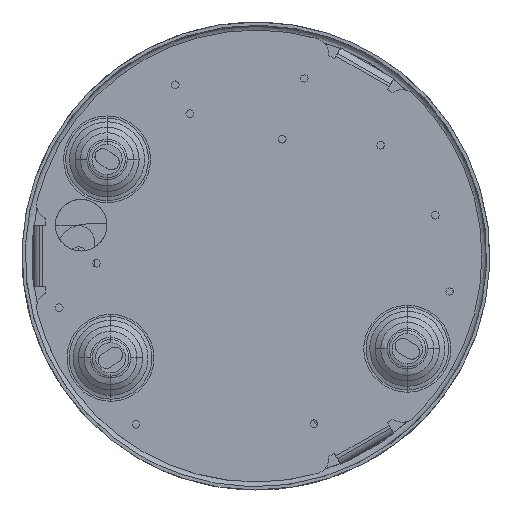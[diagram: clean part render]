
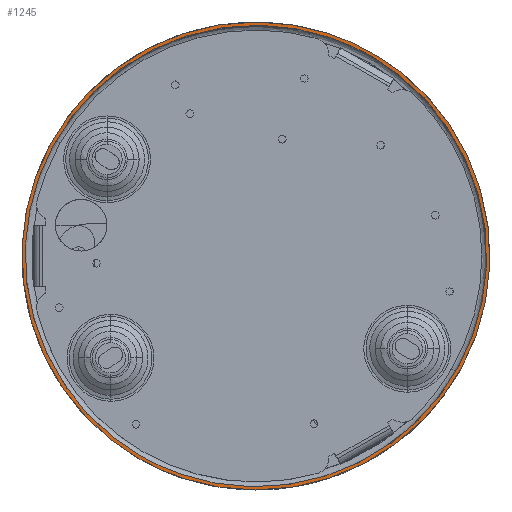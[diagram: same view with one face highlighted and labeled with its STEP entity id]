
A CAD part, top view. The second image highlights one B-rep face of the part: STEP entity #1245.
In plain terms, the highlighted planar face has unit normal (0, 0, 1).
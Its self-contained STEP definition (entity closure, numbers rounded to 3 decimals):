
#584=FACE_BOUND('',#3029,.T.);
#1245=ADVANCED_FACE('',(#2073,#584),#12889,.T.);
#2073=FACE_OUTER_BOUND('',#3028,.T.);
#3028=EDGE_LOOP('',(#6291,#6292));
#3029=EDGE_LOOP('',(#6293,#6294));
#6291=ORIENTED_EDGE('',*,*,#8867,.F.);
#6292=ORIENTED_EDGE('',*,*,#8838,.F.);
#6293=ORIENTED_EDGE('',*,*,#8852,.T.);
#6294=ORIENTED_EDGE('',*,*,#8873,.T.);
#8838=EDGE_CURVE('',#12371,#12391,#10391,.T.);
#8852=EDGE_CURVE('',#12382,#12393,#10404,.T.);
#8867=EDGE_CURVE('',#12391,#12371,#10413,.T.);
#8873=EDGE_CURVE('',#12393,#12382,#10418,.T.);
#10391=(
BOUNDED_CURVE()
B_SPLINE_CURVE(2,(#28893,#28894,#28895,#28896,#28897),.UNSPECIFIED.,.F.,
 .F.)
B_SPLINE_CURVE_WITH_KNOTS((3,2,3),(0.,113.883,227.765),
 .UNSPECIFIED.)
CURVE()
GEOMETRIC_REPRESENTATION_ITEM()
RATIONAL_B_SPLINE_CURVE((1.,0.707,1.,0.707,1.))
REPRESENTATION_ITEM('')
);
#10404=(
BOUNDED_CURVE()
B_SPLINE_CURVE(2,(#28944,#28945,#28946,#28947,#28948),.UNSPECIFIED.,.F.,
 .F.)
B_SPLINE_CURVE_WITH_KNOTS((3,2,3),(-449.248,-336.936,-224.624),
 .UNSPECIFIED.)
CURVE()
GEOMETRIC_REPRESENTATION_ITEM()
RATIONAL_B_SPLINE_CURVE((1.,0.707,1.,0.707,1.))
REPRESENTATION_ITEM('')
);
#10413=(
BOUNDED_CURVE()
B_SPLINE_CURVE(2,(#29001,#29002,#29003,#29004,#29005),.UNSPECIFIED.,.F.,
 .F.)
B_SPLINE_CURVE_WITH_KNOTS((3,2,3),(227.765,341.648,455.531),
 .UNSPECIFIED.)
CURVE()
GEOMETRIC_REPRESENTATION_ITEM()
RATIONAL_B_SPLINE_CURVE((1.,0.707,1.,0.707,1.))
REPRESENTATION_ITEM('')
);
#10418=(
BOUNDED_CURVE()
B_SPLINE_CURVE(2,(#29020,#29021,#29022,#29023,#29024),.UNSPECIFIED.,.F.,
 .F.)
B_SPLINE_CURVE_WITH_KNOTS((3,2,3),(-224.624,-112.312,0.),
 .UNSPECIFIED.)
CURVE()
GEOMETRIC_REPRESENTATION_ITEM()
RATIONAL_B_SPLINE_CURVE((1.,0.707,1.,0.707,1.))
REPRESENTATION_ITEM('')
);
#12371=VERTEX_POINT('',#28821);
#12382=VERTEX_POINT('',#28832);
#12391=VERTEX_POINT('',#28841);
#12393=VERTEX_POINT('',#28843);
#12889=PLANE('',#13804);
#13804=AXIS2_PLACEMENT_3D('',#28716,#14399,$);
#14399=DIRECTION('',(0.,0.,1.));
#28716=CARTESIAN_POINT('',(-119.008,-31.888,0.));
#28821=CARTESIAN_POINT('',(36.25,62.787,0.));
#28832=CARTESIAN_POINT('',(35.75,61.921,0.));
#28841=CARTESIAN_POINT('',(-36.25,-62.787,0.));
#28843=CARTESIAN_POINT('',(-35.75,-61.921,0.));
#28893=CARTESIAN_POINT('',(36.25,62.787,0.));
#28894=CARTESIAN_POINT('',(99.037,26.537,0.));
#28895=CARTESIAN_POINT('',(62.787,-36.25,0.));
#28896=CARTESIAN_POINT('',(26.537,-99.037,0.));
#28897=CARTESIAN_POINT('',(-36.25,-62.787,0.));
#28944=CARTESIAN_POINT('',(35.75,61.921,0.));
#28945=CARTESIAN_POINT('',(97.671,26.171,0.));
#28946=CARTESIAN_POINT('',(61.921,-35.75,0.));
#28947=CARTESIAN_POINT('',(26.171,-97.671,0.));
#28948=CARTESIAN_POINT('',(-35.75,-61.921,0.));
#29001=CARTESIAN_POINT('',(-36.25,-62.787,0.));
#29002=CARTESIAN_POINT('',(-99.037,-26.537,0.));
#29003=CARTESIAN_POINT('',(-62.787,36.25,0.));
#29004=CARTESIAN_POINT('',(-26.537,99.037,0.));
#29005=CARTESIAN_POINT('',(36.25,62.787,0.));
#29020=CARTESIAN_POINT('',(-35.75,-61.921,0.));
#29021=CARTESIAN_POINT('',(-97.671,-26.171,0.));
#29022=CARTESIAN_POINT('',(-61.921,35.75,0.));
#29023=CARTESIAN_POINT('',(-26.171,97.671,0.));
#29024=CARTESIAN_POINT('',(35.75,61.921,0.));
